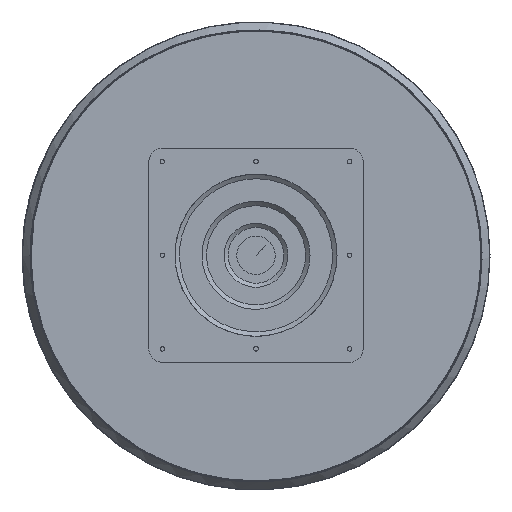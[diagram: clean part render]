
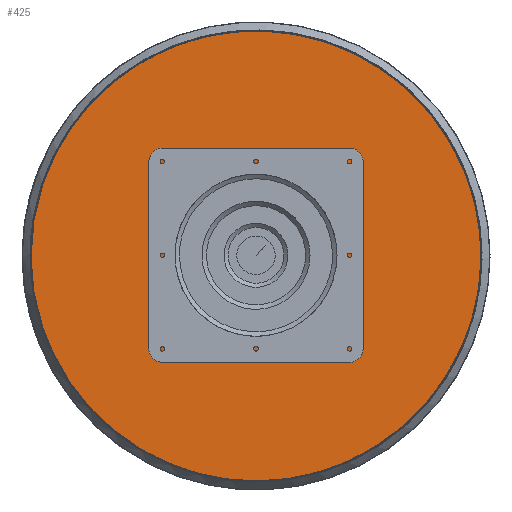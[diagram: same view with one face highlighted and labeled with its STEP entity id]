
A CAD part, top view. The second image highlights one B-rep face of the part: STEP entity #425.
In plain terms, the highlighted free-form (B-spline) face has degree [2, 1] with [9, 2] control points.
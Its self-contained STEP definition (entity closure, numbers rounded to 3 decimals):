
#88=B_SPLINE_CURVE_WITH_KNOTS('',1,(#2484,#2485),.UNSPECIFIED.,.F.,.F.,
(2,2),(0.,249.88),.UNSPECIFIED.);
#425=ADVANCED_FACE('',(#492),#1294,.T.);
#492=FACE_OUTER_BOUND('',#577,.T.);
#577=EDGE_LOOP('',(#774,#775,#776));
#774=ORIENTED_EDGE('',*,*,#954,.T.);
#775=ORIENTED_EDGE('',*,*,#955,.T.);
#776=ORIENTED_EDGE('',*,*,#955,.F.);
#954=EDGE_CURVE('',#1203,#1203,#1103,.T.);
#955=EDGE_CURVE('',#1203,#1204,#88,.T.);
#1103=(
BOUNDED_CURVE()
B_SPLINE_CURVE(2,(#2475,#2476,#2477,#2478,#2479,#2480,#2481,#2482,#2483),
 .UNSPECIFIED.,.T.,.F.)
B_SPLINE_CURVE_WITH_KNOTS((3,2,2,2,3),(0.,392.511,785.021,
1177.532,1570.042),.UNSPECIFIED.)
CURVE()
GEOMETRIC_REPRESENTATION_ITEM()
RATIONAL_B_SPLINE_CURVE((1.,0.707,1.,0.707,1.,0.707,
1.,0.707,1.))
REPRESENTATION_ITEM('')
);
#1203=VERTEX_POINT('',#2473);
#1204=VERTEX_POINT('',#2474);
#1294=(
BOUNDED_SURFACE()
B_SPLINE_SURFACE(2,1,((#2455,#2456),(#2457,#2458),(#2459,#2460),(#2461,
#2462),(#2463,#2464),(#2465,#2466),(#2467,#2468),(#2469,#2470),(#2471,#2472)),
 .UNSPECIFIED.,.T.,.F.,.F.)
B_SPLINE_SURFACE_WITH_KNOTS((3,2,2,2,3),(2,2),(0.,392.511,785.021,
1177.532,1570.042),(0.,249.88),.UNSPECIFIED.)
GEOMETRIC_REPRESENTATION_ITEM()
RATIONAL_B_SPLINE_SURFACE(((1.,1.),(0.707,0.707),
(1.,1.),(0.707,0.707),(1.,1.),(0.707,
0.707),(1.,1.),(0.707,0.707),(1.,1.)))
REPRESENTATION_ITEM('')
SURFACE()
);
#2455=CARTESIAN_POINT('',(-249.88,0.,18.));
#2456=CARTESIAN_POINT('',(0.,0.,18.));
#2457=CARTESIAN_POINT('',(-249.88,249.88,18.));
#2458=CARTESIAN_POINT('',(0.,0.,18.));
#2459=CARTESIAN_POINT('',(0.,249.88,18.));
#2460=CARTESIAN_POINT('',(0.,0.,18.));
#2461=CARTESIAN_POINT('',(249.88,249.88,18.));
#2462=CARTESIAN_POINT('',(0.,0.,18.));
#2463=CARTESIAN_POINT('',(249.88,0.,18.));
#2464=CARTESIAN_POINT('',(0.,0.,18.));
#2465=CARTESIAN_POINT('',(249.88,-249.88,18.));
#2466=CARTESIAN_POINT('',(0.,0.,18.));
#2467=CARTESIAN_POINT('',(0.,-249.88,18.));
#2468=CARTESIAN_POINT('',(0.,0.,18.));
#2469=CARTESIAN_POINT('',(-249.88,-249.88,18.));
#2470=CARTESIAN_POINT('',(0.,0.,18.));
#2471=CARTESIAN_POINT('',(-249.88,0.,18.));
#2472=CARTESIAN_POINT('',(0.,0.,18.));
#2473=CARTESIAN_POINT('',(-249.88,0.,18.));
#2474=CARTESIAN_POINT('',(0.,0.,18.));
#2475=CARTESIAN_POINT('',(-249.88,0.,18.));
#2476=CARTESIAN_POINT('',(-249.88,249.88,18.));
#2477=CARTESIAN_POINT('',(0.,249.88,18.));
#2478=CARTESIAN_POINT('',(249.88,249.88,18.));
#2479=CARTESIAN_POINT('',(249.88,0.,18.));
#2480=CARTESIAN_POINT('',(249.88,-249.88,18.));
#2481=CARTESIAN_POINT('',(0.,-249.88,18.));
#2482=CARTESIAN_POINT('',(-249.88,-249.88,18.));
#2483=CARTESIAN_POINT('',(-249.88,0.,18.));
#2484=CARTESIAN_POINT('',(-249.88,0.,18.));
#2485=CARTESIAN_POINT('',(0.,0.,18.));
